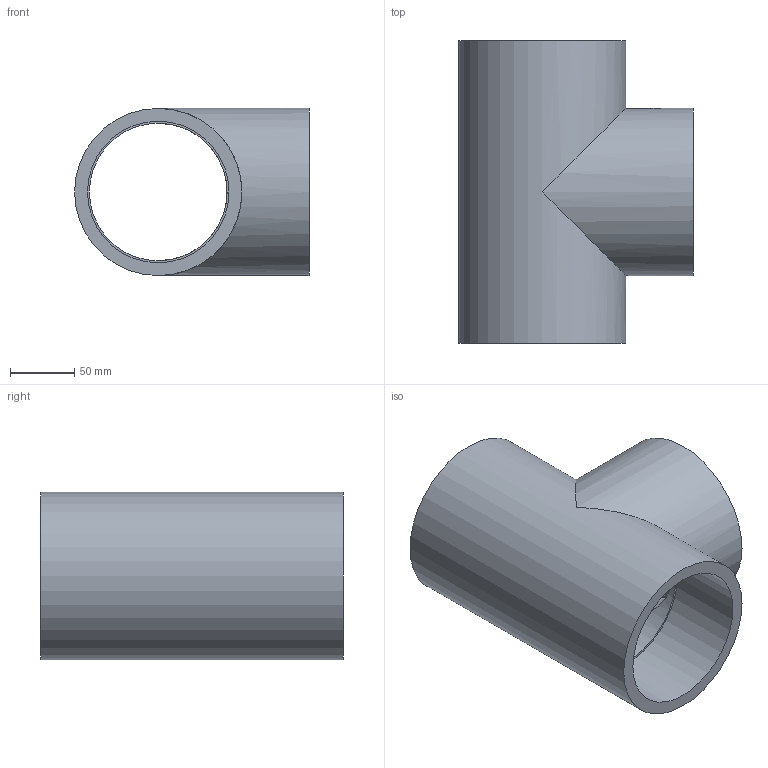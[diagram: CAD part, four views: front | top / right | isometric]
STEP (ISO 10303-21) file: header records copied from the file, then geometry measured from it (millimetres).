
FILE_DESCRIPTION(/* description */ ('PVC ti a 90° incollaggio metrico-filettato BSP femmina'),/* implementation_level */ '2;1');
FILE_NAME(/* name */ 'C:\Users\POLYPIPE\Desktop\DATASET INVENTOR\LIBRERIA EFFAST\RACCORDI 3DxWEB\RGR\3D_RGRTIG\3D_RGRTIG110L.stp',/* time_stamp */ '2018-01-19T17:54:28+01:00',/* author */ ('POLYPIPE'),/* organization */ ('Polypipe Italia s.r.l.'),/* preprocessor_version */ 'ST-DEVELOPER v16.1',/* originating_system */ 'Autodesk Inventor 2016',/* authorisation */ '');
FILE_SCHEMA (('CONFIG_CONTROL_DESIGN'));
Length unit declared in the file: millimetre
Products named in the file (1): 3D_RGRTIG
Bounding box: 182.5 x 235 x 130 mm (x, y, z)
Volume: 1092528.4 mm3; surface area: 229541.4 mm2
Topology: 1 solids, 1 shells, 19 faces, 40 edges, 27 vertices
Faces by surface type: plane 7, cylinder 7, bspline 5
Full cylindrical faces by diameter (mm): 107 x2, 110 x2, 110.072 x1, 130 x2
Entity records: 6695 total; most frequent: CARTESIAN_POINT 6305, DIRECTION 69, ORIENTED_EDGE 64, EDGE_LOOP 33, AXIS2_PLACEMENT_3D 33, EDGE_CURVE 32, VERTEX_POINT 25, FACE_OUTER_BOUND 19
